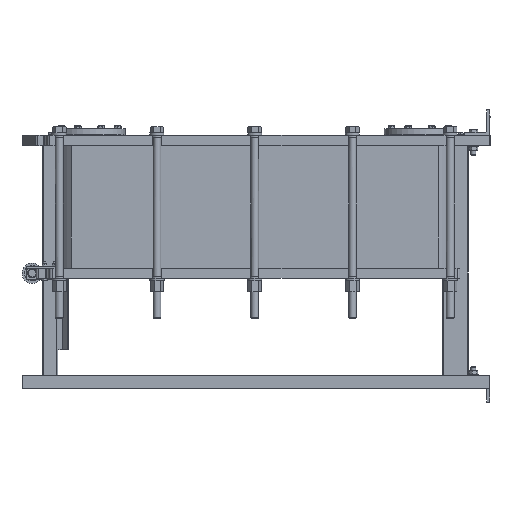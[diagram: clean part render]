
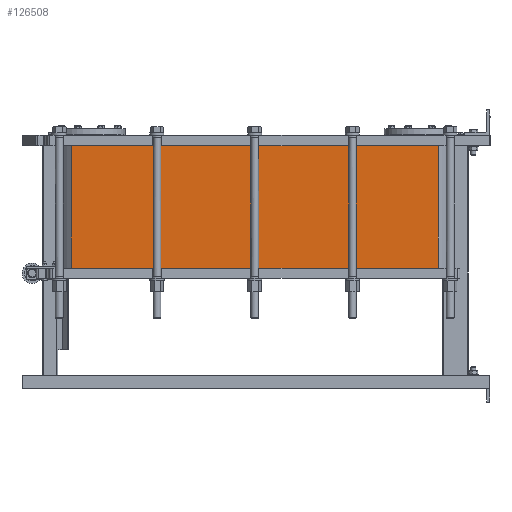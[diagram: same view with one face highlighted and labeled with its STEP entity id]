
A CAD part, left-side view. The second image highlights one B-rep face of the part: STEP entity #126508.
In plain terms, the highlighted planar face has unit normal (-1, 0, 0).
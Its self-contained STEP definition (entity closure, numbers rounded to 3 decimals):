
#379 = ORIENTED_EDGE ( 'NONE', *, *, #145978, .F. ) ;
#1962 = VERTEX_POINT ( 'NONE', #92281 ) ;
#3106 = LINE ( 'NONE', #8741, #65206 ) ;
#5297 = DIRECTION ( 'NONE',  ( 0., 0., -1. ) ) ;
#8741 = CARTESIAN_POINT ( 'NONE',  ( 56., 922., -140. ) ) ;
#8811 = DIRECTION ( 'NONE',  ( 0., 1., 0. ) ) ;
#15712 = CARTESIAN_POINT ( 'NONE',  ( 56., 1641.72, -140. ) ) ;
#17372 = ORIENTED_EDGE ( 'NONE', *, *, #76588, .T. ) ;
#28245 = VERTEX_POINT ( 'NONE', #102919 ) ;
#28957 = ORIENTED_EDGE ( 'NONE', *, *, #76883, .F. ) ;
#30019 = EDGE_LOOP ( 'NONE', ( #33199, #17372, #28957, #379 ) ) ;
#33199 = ORIENTED_EDGE ( 'NONE', *, *, #120765, .F. ) ;
#38492 = DIRECTION ( 'NONE',  ( -1., 0., 0. ) ) ;
#43536 = VERTEX_POINT ( 'NONE', #50521 ) ;
#49411 = VECTOR ( 'NONE', #5297, 1000. ) ;
#49472 = CARTESIAN_POINT ( 'NONE',  ( 56., 202.28, -140. ) ) ;
#50521 = CARTESIAN_POINT ( 'NONE',  ( 56., 1641.72, -140. ) ) ;
#51057 = VECTOR ( 'NONE', #8811, 1000. ) ;
#54279 = DIRECTION ( 'NONE',  ( 0., 0., -1. ) ) ;
#56590 = CARTESIAN_POINT ( 'NONE',  ( 56., 1641.72, -620. ) ) ;
#60334 = AXIS2_PLACEMENT_3D ( 'NONE', #49472, #38492, #129187 ) ;
#65206 = VECTOR ( 'NONE', #143081, 1000. ) ;
#67245 = VECTOR ( 'NONE', #54279, 1000. ) ;
#76588 = EDGE_CURVE ( 'NONE', #43536, #110664, #86434, .T. ) ;
#76883 = EDGE_CURVE ( 'NONE', #28245, #110664, #143136, .T. ) ;
#86434 = LINE ( 'NONE', #15712, #49411 ) ;
#89702 = FACE_OUTER_BOUND ( 'NONE', #30019, .T. ) ;
#92281 = CARTESIAN_POINT ( 'NONE',  ( 56., 202.28, -140. ) ) ;
#97308 = LINE ( 'NONE', #122119, #67245 ) ;
#102919 = CARTESIAN_POINT ( 'NONE',  ( 56., 202.28, -620. ) ) ;
#106293 = PLANE ( 'NONE',  #60334 ) ;
#110664 = VERTEX_POINT ( 'NONE', #56590 ) ;
#120765 = EDGE_CURVE ( 'NONE', #43536, #1962, #3106, .T. ) ;
#122119 = CARTESIAN_POINT ( 'NONE',  ( 56., 202.28, -140. ) ) ;
#126508 = ADVANCED_FACE ( 'NONE', ( #89702 ), #106293, .T. ) ;
#129187 = DIRECTION ( 'NONE',  ( 0., 1., 0. ) ) ;
#133692 = CARTESIAN_POINT ( 'NONE',  ( 56., 922., -620. ) ) ;
#143081 = DIRECTION ( 'NONE',  ( 0., -1., 0. ) ) ;
#143136 = LINE ( 'NONE', #133692, #51057 ) ;
#145978 = EDGE_CURVE ( 'NONE', #1962, #28245, #97308, .T. ) ;
